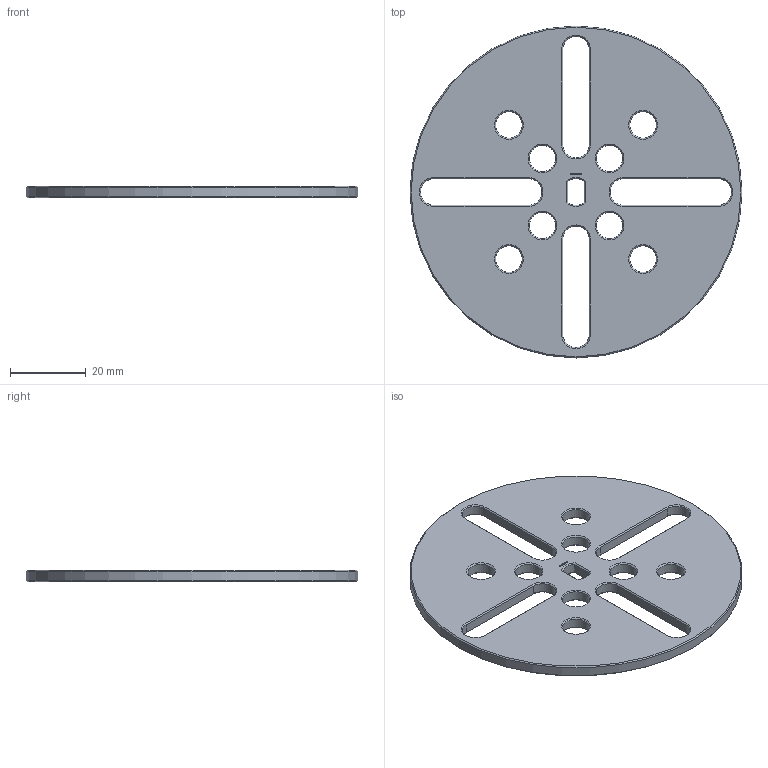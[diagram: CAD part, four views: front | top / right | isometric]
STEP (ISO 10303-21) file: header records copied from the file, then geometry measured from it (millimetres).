
FILE_DESCRIPTION(/* description */ (''),/* implementation_level */ '2;1');
FILE_NAME(/* name */ '/Users/paulokiefe/Desktop/STEMFIE/Fasteners/Washers/Fixed/Washer WSR FXD BU0.25x7.00 - SPN-WSR-0025 v1.step',/* time_stamp */ '2020-09-27T23:20:27+02:00',/* author */ (''),/* organization */ (''),/* preprocessor_version */ 'ST-DEVELOPER v18.1',/* originating_system */ 'Autodesk Translation Framework v9.3.0.1241',/* authorisation */ '');
FILE_SCHEMA (('AUTOMOTIVE_DESIGN { 1 0 10303 214 3 1 1 }'));
Length unit declared in the file: millimetre
Products named in the file (1): Washer WSR FXD BU0.25x7.00 - SPN-WSR-0025
Bounding box: 87.5 x 87.5 x 3.12 mm (x, y, z)
Volume: 15002.1 mm3; surface area: 11754.6 mm2
Topology: 1 solids, 1 shells, 333 faces, 899 edges, 580 vertices
Faces by surface type: plane 276, cone 38, cylinder 19
Full cylindrical faces by diameter (mm): 7 x8, 87.5 x1
Entity records: 10318 total; most frequent: CARTESIAN_POINT 1837, ORIENTED_EDGE 1798, DIRECTION 1635, EDGE_CURVE 899, LINE 815, VECTOR 815, VERTEX_POINT 580, AXIS2_PLACEMENT_3D 410
